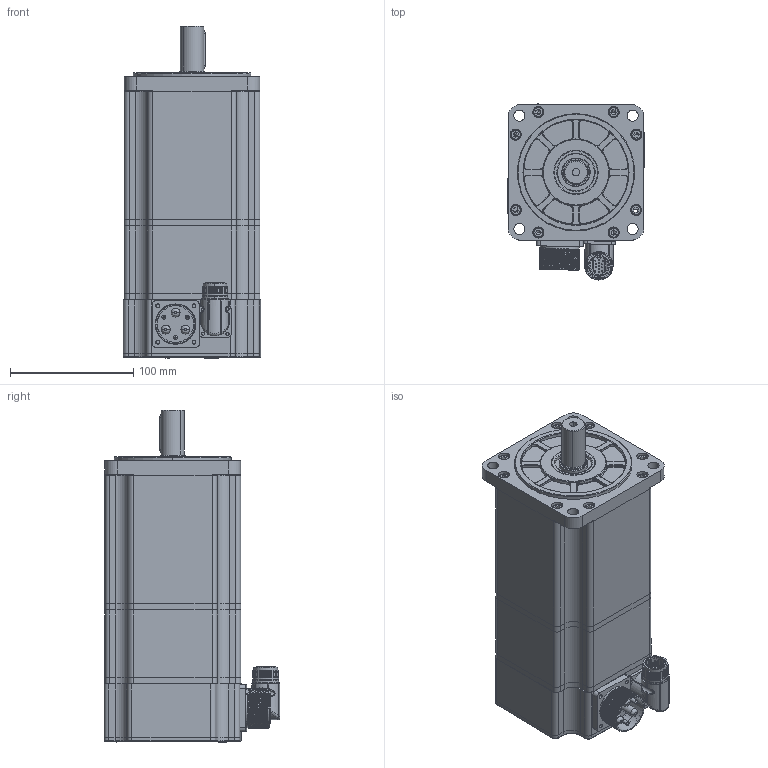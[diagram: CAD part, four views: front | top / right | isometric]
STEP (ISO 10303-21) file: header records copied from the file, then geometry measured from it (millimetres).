
FILE_DESCRIPTION (( 'STEP AP203' ), '1' );
FILE_NAME ('9.6975 SMH110D-0120-30ABK-4DKR.STEP', '2018-08-27T06:13:30', ( '' ), ( '' ), 'SwSTEP 2.0', 'SolidWorks 2008', '' );
FILE_SCHEMA (( 'CONFIG_CONTROL_DESIGN' ));
Length unit declared in the file: millimetre
Products named in the file (1): 9.6975 SMH110D-0120-30ABK-4DKR
Bounding box: 111.36 x 142.6 x 269 mm (x, y, z)
Surface area: 155629 mm2 (no closed solid volume)
Topology: 0 solids, 46 shells, 817 faces, 2364 edges, 1568 vertices
Faces by surface type: cylinder 403, plane 250, bspline 123, cone 41
Entity records: 34079 total; most frequent: CARTESIAN_POINT 13144, DIRECTION 4476, ORIENTED_EDGE 4092, EDGE_CURVE 2322, AXIS2_PLACEMENT_3D 1724, VERTEX_POINT 1568, CIRCLE 1029, VECTOR 1028
